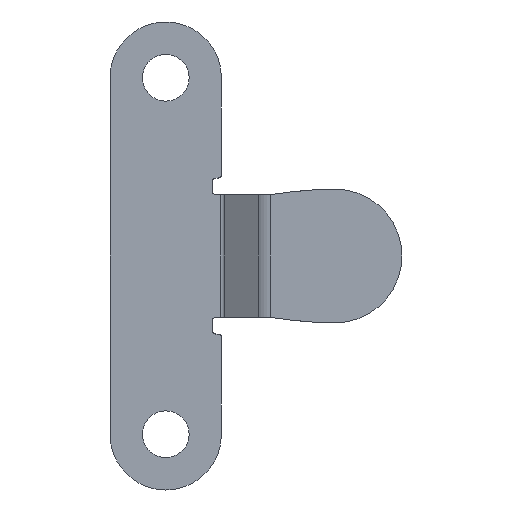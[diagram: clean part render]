
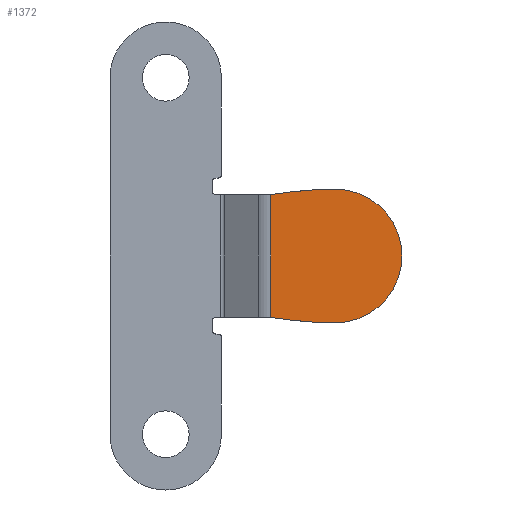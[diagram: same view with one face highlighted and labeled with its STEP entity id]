
A CAD part, front view. The second image highlights one B-rep face of the part: STEP entity #1372.
In plain terms, the highlighted planar face has unit normal (0, -1, 0).
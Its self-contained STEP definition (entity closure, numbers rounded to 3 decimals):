
#65 = CARTESIAN_POINT ( 'NONE',  ( 15.2, -2.5, 16. ) ) ;
#66 = DIRECTION ( 'NONE',  ( 0., 1., 0. ) ) ;
#67 = DIRECTION ( 'NONE',  ( 0., 0., 1. ) ) ;
#149 = CARTESIAN_POINT ( 'NONE',  ( 15.2, -2.5, 16. ) ) ;
#150 = DIRECTION ( 'NONE',  ( 0., 1., 0. ) ) ;
#151 = DIRECTION ( 'NONE',  ( 0., 0., 1. ) ) ;
#347 = DIRECTION ( 'NONE',  ( 0., 0., -1. ) ) ;
#348 = CARTESIAN_POINT ( 'NONE',  ( 9.412, -2.5, 10.5 ) ) ;
#351 = LINE ( 'NONE', #348, #1518 ) ;
#370 = EDGE_LOOP ( 'NONE', ( #652, #651, #650, #649, #648, #647 ) ) ;
#447 = CARTESIAN_POINT ( 'NONE',  ( 9.412, -2.5, 21.506 ) ) ;
#491 = CARTESIAN_POINT ( 'NONE',  ( 15.112, -2.5, 21.999 ) ) ;
#492 = CARTESIAN_POINT ( 'NONE',  ( 9.412, -2.5, 10.494 ) ) ;
#503 = CARTESIAN_POINT ( 'NONE',  ( 15.2, -2.5, 10. ) ) ;
#504 = CARTESIAN_POINT ( 'NONE',  ( 15.2, -2.5, 22. ) ) ;
#508 = CARTESIAN_POINT ( 'NONE',  ( 15.112, -2.5, 10.001 ) ) ;
#557 = VERTEX_POINT ( 'NONE', #508 ) ;
#561 = VERTEX_POINT ( 'NONE', #504 ) ;
#562 = VERTEX_POINT ( 'NONE', #503 ) ;
#628 = VERTEX_POINT ( 'NONE', #492 ) ;
#629 = VERTEX_POINT ( 'NONE', #491 ) ;
#647 = ORIENTED_EDGE ( 'NONE', *, *, #1403, .F. ) ;
#648 = ORIENTED_EDGE ( 'NONE', *, *, #1495, .F. ) ;
#649 = ORIENTED_EDGE ( 'NONE', *, *, #1477, .F. ) ;
#650 = ORIENTED_EDGE ( 'NONE', *, *, #1405, .F. ) ;
#651 = ORIENTED_EDGE ( 'NONE', *, *, #1014, .T. ) ;
#652 = ORIENTED_EDGE ( 'NONE', *, *, #1391, .F. ) ;
#766 = VERTEX_POINT ( 'NONE', #447 ) ;
#868 = CIRCLE ( 'NONE', #909, 40. ) ;
#884 = CIRCLE ( 'NONE', #906, 40. ) ;
#896 = CIRCLE ( 'NONE', #995, 6. ) ;
#906 = AXIS2_PLACEMENT_3D ( 'NONE', #1172, #1173, #1174 ) ;
#909 = AXIS2_PLACEMENT_3D ( 'NONE', #1129, #1130, #1131 ) ;
#925 = AXIS2_PLACEMENT_3D ( 'NONE', #1100, #1113, #1114 ) ;
#945 = CIRCLE ( 'NONE', #949, 6. ) ;
#949 = AXIS2_PLACEMENT_3D ( 'NONE', #1166, #1167, #1168 ) ;
#979 = CIRCLE ( 'NONE', #1059, 6. ) ;
#995 = AXIS2_PLACEMENT_3D ( 'NONE', #65, #66, #67 ) ;
#1014 = EDGE_CURVE ( 'NONE', #766, #628, #351, .T. ) ;
#1059 = AXIS2_PLACEMENT_3D ( 'NONE', #149, #150, #151 ) ;
#1100 = CARTESIAN_POINT ( 'NONE',  ( 0., -2.5, 0. ) ) ;
#1110 = FACE_OUTER_BOUND ( 'NONE', #370, .T. ) ;
#1111 = PLANE ( 'NONE',  #925 ) ;
#1113 = DIRECTION ( 'NONE',  ( 0., 1., 0. ) ) ;
#1114 = DIRECTION ( 'NONE',  ( 0., 0., 1. ) ) ;
#1129 = CARTESIAN_POINT ( 'NONE',  ( 15.7, -2.5, -17.996 ) ) ;
#1130 = DIRECTION ( 'NONE',  ( 0., 1., 0. ) ) ;
#1131 = DIRECTION ( 'NONE',  ( 0., 0., 1. ) ) ;
#1166 = CARTESIAN_POINT ( 'NONE',  ( 15.2, -2.5, 16. ) ) ;
#1167 = DIRECTION ( 'NONE',  ( 0., 1., 0. ) ) ;
#1168 = DIRECTION ( 'NONE',  ( 0., 0., 1. ) ) ;
#1172 = CARTESIAN_POINT ( 'NONE',  ( 15.7, -2.5, 49.996 ) ) ;
#1173 = DIRECTION ( 'NONE',  ( 0., 1., 0. ) ) ;
#1174 = DIRECTION ( 'NONE',  ( 0., 0., -1. ) ) ;
#1372 = ADVANCED_FACE ( 'NONE', ( #1110 ), #1111, .F. ) ;
#1391 = EDGE_CURVE ( 'NONE', #766, #629, #868, .T. ) ;
#1403 = EDGE_CURVE ( 'NONE', #629, #561, #945, .T. ) ;
#1405 = EDGE_CURVE ( 'NONE', #557, #628, #884, .T. ) ;
#1477 = EDGE_CURVE ( 'NONE', #562, #557, #896, .T. ) ;
#1495 = EDGE_CURVE ( 'NONE', #561, #562, #979, .T. ) ;
#1518 = VECTOR ( 'NONE', #347, 1000. ) ;
